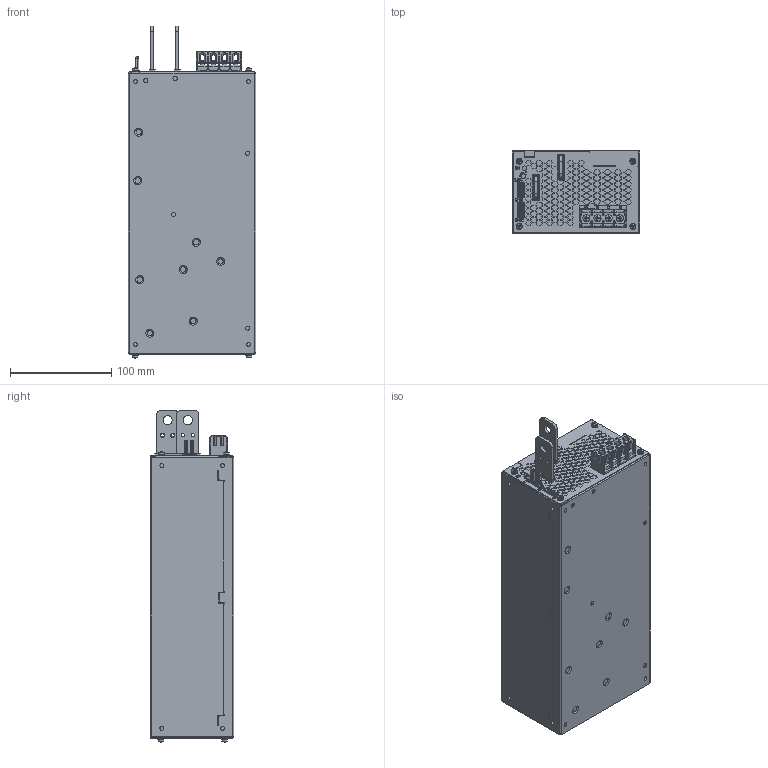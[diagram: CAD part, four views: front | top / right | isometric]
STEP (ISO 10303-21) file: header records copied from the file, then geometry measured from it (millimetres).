
FILE_DESCRIPTION (( 'STEP AP214' ), '1' );
FILE_NAME ('HWS1800T_OUTLINE.STEP', '2010-06-21T02:37:08', ( 'nag_spsrd_cad08' ), ( 'TDK-Lambda' ), 'SwSTEP 2.0', 'SolidWorks 2010', '' );
FILE_SCHEMA (( 'AUTOMOTIVE_DESIGN' ));
Length unit declared in the file: millimetre
Products named in the file (1): HWS1800T_OUTLINE
Bounding box: 126.5 x 82.5 x 328.55 mm (x, y, z)
Volume: 2925052.4 mm3; surface area: 166840.5 mm2
Topology: 1 solids, 1 shells, 4888 faces, 12827 edges, 8356 vertices
Faces by surface type: plane 3971, cylinder 546, cone 175, torus 136, bspline 34, sphere 26
Entity records: 205203 total; most frequent: CARTESIAN_POINT 29559, ORIENTED_EDGE 25602, DIRECTION 24226, EDGE_CURVE 12801, LINE 10572, VECTOR 10572, VERTEX_POINT 8356, AXIS2_PLACEMENT_3D 6827
